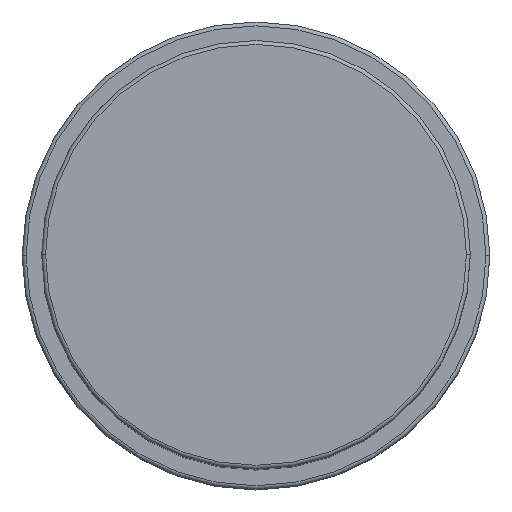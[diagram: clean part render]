
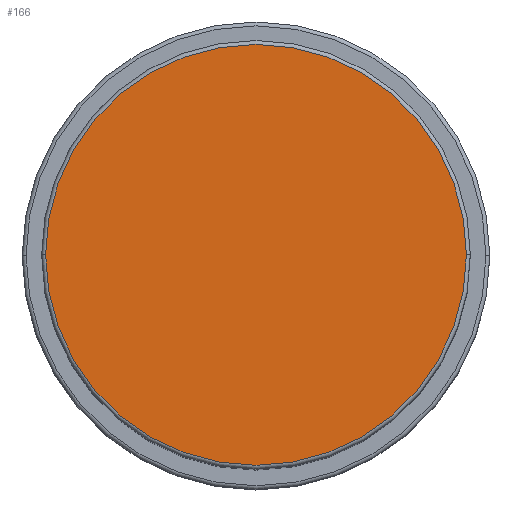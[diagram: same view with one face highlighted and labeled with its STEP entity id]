
A CAD part, top view. The second image highlights one B-rep face of the part: STEP entity #166.
In plain terms, the highlighted planar face has unit normal (0, 0, 1).
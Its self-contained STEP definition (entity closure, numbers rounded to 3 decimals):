
#166 = ADVANCED_FACE ( 'NONE', ( #741 ), #887, .T. ) ;
#209 = CIRCLE ( 'NONE', #398, 27. ) ;
#265 = VERTEX_POINT ( 'NONE', #909 ) ;
#276 = DIRECTION ( 'NONE',  ( 0., 0., 1. ) ) ;
#332 = DIRECTION ( 'NONE',  ( 0., 0., 1. ) ) ;
#398 = AXIS2_PLACEMENT_3D ( 'NONE', #963, #276, #1514 ) ;
#414 = CARTESIAN_POINT ( 'NONE',  ( 0., 0., 96. ) ) ;
#445 = CIRCLE ( 'NONE', #1469, 27. ) ;
#462 = DIRECTION ( 'NONE',  ( 1., 0., 0. ) ) ;
#647 = EDGE_CURVE ( 'NONE', #1207, #265, #209, .T. ) ;
#659 = DIRECTION ( 'NONE',  ( 0., 0., 1. ) ) ;
#741 = FACE_OUTER_BOUND ( 'NONE', #828, .T. ) ;
#769 = ORIENTED_EDGE ( 'NONE', *, *, #647, .T. ) ;
#807 = DIRECTION ( 'NONE',  ( 1., 0., 0. ) ) ;
#828 = EDGE_LOOP ( 'NONE', ( #1440, #769 ) ) ;
#887 = PLANE ( 'NONE',  #1046 ) ;
#909 = CARTESIAN_POINT ( 'NONE',  ( 27., 0., 96. ) ) ;
#963 = CARTESIAN_POINT ( 'NONE',  ( 0., 0., 96. ) ) ;
#1046 = AXIS2_PLACEMENT_3D ( 'NONE', #1691, #332, #462 ) ;
#1207 = VERTEX_POINT ( 'NONE', #1622 ) ;
#1440 = ORIENTED_EDGE ( 'NONE', *, *, #1570, .T. ) ;
#1469 = AXIS2_PLACEMENT_3D ( 'NONE', #414, #659, #807 ) ;
#1514 = DIRECTION ( 'NONE',  ( 1., 0., 0. ) ) ;
#1570 = EDGE_CURVE ( 'NONE', #265, #1207, #445, .T. ) ;
#1622 = CARTESIAN_POINT ( 'NONE',  ( -27., 0., 96. ) ) ;
#1691 = CARTESIAN_POINT ( 'NONE',  ( 0., 0., 96. ) ) ;
